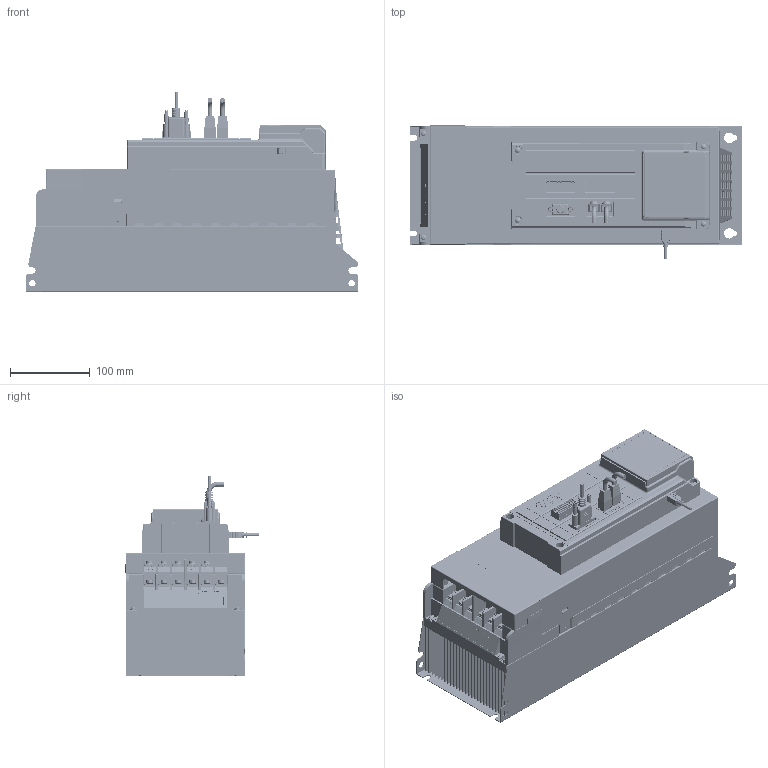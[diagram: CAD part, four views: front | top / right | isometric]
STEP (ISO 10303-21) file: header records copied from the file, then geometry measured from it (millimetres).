
FILE_DESCRIPTION(('CATIA V5 STEP Exchange','CAx-IF Rec.Pracs.--- Composite Materials ---3.4---2017-06-13'),'2;1');
FILE_NAME('E:\【1】\新建文件夹 (54)\DS5C1-415P0-PTA-官网图-241210.stp','2024-12-11T08:12:15+00:00',('none'),('none'),'CATIA Version 5-6 Release 2020','CATIA V5 STEP AP203 v1','none');
FILE_SCHEMA(('CONFIG_CONTROL_DESIGN'));
Products named in the file (1): X3渲染用图
Bounding box: 417 x 167.43 x 251.28 mm (x, y, z)
Volume: 4867461.2 mm3; surface area: 1830483.4 mm2
Topology: 210 solids, 231 shells, 19971 faces, 78612 edges, 59395 vertices
Faces by surface type: plane 9712, cylinder 5683, bspline 3388, cone 375, torus 371, sphere 210, extrusion 200, revolution 32
Entity records: 1000935 total; most frequent: CARTESIAN_POINT 451593, ORIENTED_EDGE 157030, EDGE_CURVE 78516, VERTEX_POINT 59392, DIRECTION 55009, B_SPLINE_CURVE_WITH_KNOTS 41503, VECTOR 31301, LINE 31101
